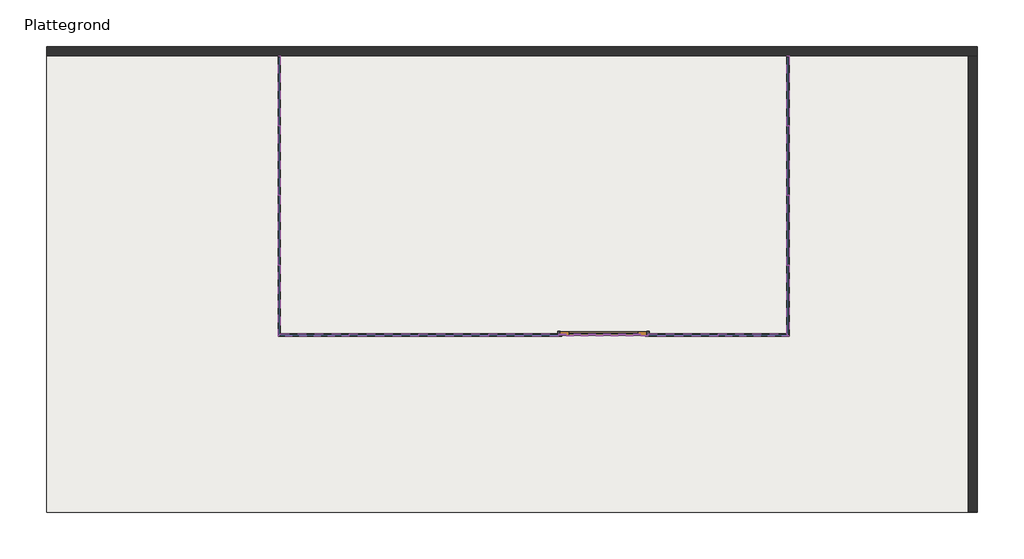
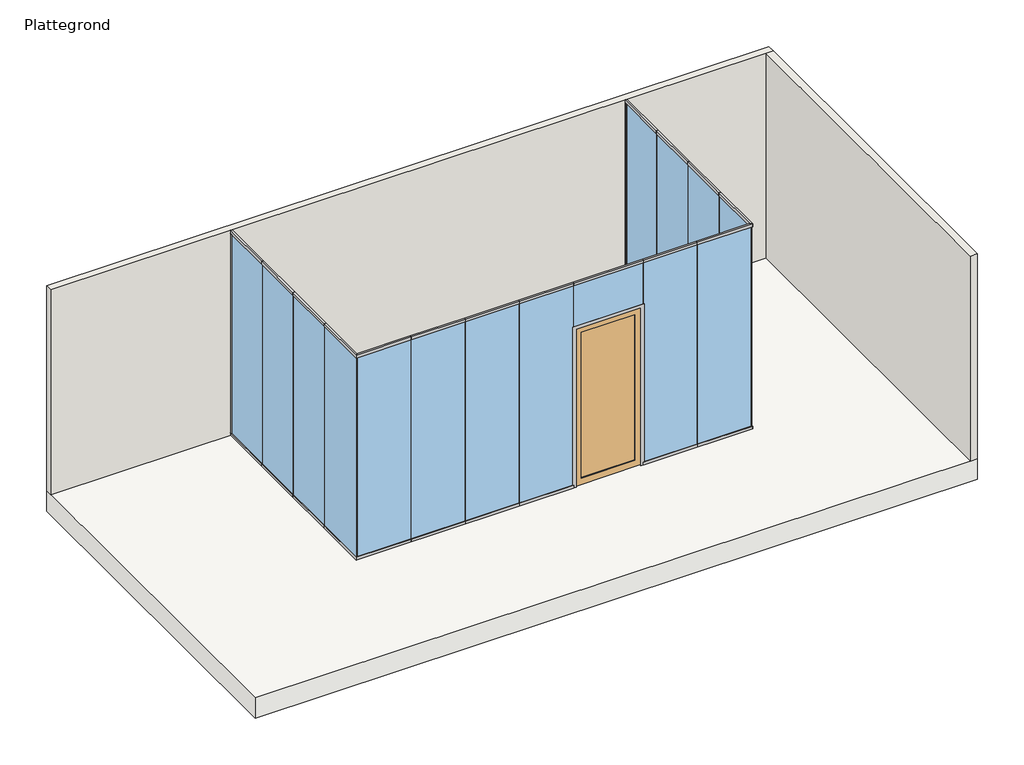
# One storey: 32 members, 15 windows, 2 walls, 1 door, 1 slab.
"""IFC4 building model written with IfcOpenShell, lengths in millimetres."""

from ifc_helpers import new_model, si_unit, frame, origin, origin_with_axes, place, context, project, spatial, polyline, outline, extrude, faceted_brep, transform, mapped, element, save
from components import door_8fe75821, member_32_im_005_hgs_32_im_005_hgs_e924d92b, rectangular_mullion_edcf2523, rectangular_mullion_ccb339f7, rectangular_mullion_8ea182ef, rectangular_mullion_9d4a5aa8, rectangular_mullion_2450aa11, rectangular_mullion_95f8c3c7, rectangular_mullion_e158b8b9, rectangular_mullion_f6220092, rectangular_mullion_41da4477, rectangular_mullion_288d5927, window_32_im_002_hgs_32_im_002_hgs_72c7ee55, window_32_im_002_hgs_32_im_002_hgs_77d960d4, window_32_im_002_hgs_32_im_002_hgs_65bd3827, window_32_im_002_hgs_32_im_002_hgs_8f304ec4, window_32_im_002_hgs_32_im_002_hgs_97abe2d1, window_32_im_002_hgs_32_im_002_hgs_2188cdbe, window_32_im_002_hgs_32_im_002_hgs_a56874b4

model = new_model("IFC4")

# Units and contexts
model_context = context("Model", 3, world=origin())
ifc_project = project(units=[si_unit("LENGTHUNIT", "METRE", prefix="MILLI")], contexts=[model_context])

# Site, building, storey
site = spatial("IfcSite", under=ifc_project)
building = spatial("IfcBuilding", under=site)
storey = spatial("IfcBuildingStorey", under=building, Name="Plattegrond", Elevation=0.0)

# Door
placement = place(None, origin())
door_shape = door_8fe75821(model_context)
element("IfcDoor", 1, ObjectType="32_IM_deurpaneel : 32_IM_deurpaneel_L_KD", at=placement, inside=storey, context=model_context, shape_type="MappedRepresentation", body=[
    mapped(door_shape, transform((5821.9353409, 2145.0863222, 0.0), x_axis=(1.0, 0.0, 0.0), y_axis=(0.0, 1.0, 0.0), z_axis=(0.0, 0.0, 1.0))),
])

# Members
member_32_im_005_hgs_32_im_005_hgs_shape = member_32_im_005_hgs_32_im_005_hgs_e924d92b(model_context)
element("IfcMember", 2, ObjectType="32_IM_005_HGS : 32_IM_005_HGS", at=placement, inside=storey, context=model_context, shape_type="MappedRepresentation", body=[
    mapped(member_32_im_005_hgs_32_im_005_hgs_shape, transform((5821.9353409, 2127.5863222, 1177.5), x_axis=(0.0, 0.0, -1.0), y_axis=(1.0, 0.0, 0.0), z_axis=(0.0, -1.0, 0.0))),
])
rectangular_mullion_shape = rectangular_mullion_edcf2523(model_context)
element("IfcMember", 3, ObjectType="Rectangular Mullion : 22_IM_HGS_DET1_boven_40mm", at=placement, inside=storey, context=model_context, shape_type="MappedRepresentation", body=[
    mapped(rectangular_mullion_shape, transform((2339.9353409, 2127.5863222, 3000.0), x_axis=(0.0, 0.0, 1.0), y_axis=(-1.0, 0.0, 0.0), z_axis=(0.0, -1.0, 0.0))),
])
element("IfcMember", 4, ObjectType="Rectangular Mullion : 22_IM_HGS_DET1_boven_40mm", at=placement, inside=storey, context=model_context, shape_type="MappedRepresentation", body=[
    mapped(rectangular_mullion_shape, transform((7803.9353409, 2127.5863222, 3000.0), x_axis=(0.0, 0.0, 1.0), y_axis=(0.0, -1.0, 0.0), z_axis=(1.0, 0.0, 0.0))),
])
rectangular_mullion_2_shape = rectangular_mullion_ccb339f7(model_context)
element("IfcMember", 5, ObjectType="Rectangular Mullion : 22_IM_HGS_DET1_boven_40mm", at=placement, inside=storey, context=model_context, shape_type="MappedRepresentation", body=[
    mapped(rectangular_mullion_2_shape, transform((2339.9353409, 4377.5863219, 3000.0), x_axis=(0.0, 0.0, 1.0), y_axis=(-1.0, 0.0, 0.0), z_axis=(0.0, -1.0, 0.0))),
])
rectangular_mullion_3_shape = rectangular_mullion_8ea182ef(model_context)
element("IfcMember", 6, ObjectType="Rectangular Mullion : 22_IM_HGS_DET1_boven_40mm", at=placement, inside=storey, context=model_context, shape_type="MappedRepresentation", body=[
    mapped(rectangular_mullion_3_shape, transform((2339.9353409, 3627.5863219, 3000.0), x_axis=(0.0, 0.0, 1.0), y_axis=(-1.0, 0.0, 0.0), z_axis=(0.0, -1.0, 0.0))),
])
element("IfcMember", 7, ObjectType="Rectangular Mullion : 22_IM_HGS_DET1_boven_40mm", at=placement, inside=storey, context=model_context, shape_type="MappedRepresentation", body=[
    mapped(rectangular_mullion_3_shape, transform((2339.9353409, 2877.5863219, 3000.0), x_axis=(0.0, 0.0, 1.0), y_axis=(-1.0, 0.0, 0.0), z_axis=(0.0, -1.0, 0.0))),
])
element("IfcMember", 8, ObjectType="Rectangular Mullion : 22_IM_HGS_DET1_boven_40mm", at=placement, inside=storey, context=model_context, shape_type="MappedRepresentation", body=[
    mapped(rectangular_mullion_3_shape, transform((3839.9353409, 2127.5863222, 3000.0), x_axis=(0.0, 0.0, 1.0), y_axis=(0.0, -1.0, 0.0), z_axis=(1.0, 0.0, 0.0))),
])
element("IfcMember", 9, ObjectType="Rectangular Mullion : 22_IM_HGS_DET1_boven_40mm", at=placement, inside=storey, context=model_context, shape_type="MappedRepresentation", body=[
    mapped(rectangular_mullion_3_shape, transform((4589.9353409, 2127.5863222, 3000.0), x_axis=(0.0, 0.0, 1.0), y_axis=(0.0, -1.0, 0.0), z_axis=(1.0, 0.0, 0.0))),
])
element("IfcMember", 10, ObjectType="Rectangular Mullion : 22_IM_HGS_DET1_boven_40mm", at=placement, inside=storey, context=model_context, shape_type="MappedRepresentation", body=[
    mapped(rectangular_mullion_3_shape, transform((5339.9353409, 2127.5863222, 3000.0), x_axis=(0.0, 0.0, 1.0), y_axis=(0.0, -1.0, 0.0), z_axis=(1.0, 0.0, 0.0))),
])
element("IfcMember", 11, ObjectType="Rectangular Mullion : 22_IM_HGS_DET1_boven_40mm", at=placement, inside=storey, context=model_context, shape_type="MappedRepresentation", body=[
    mapped(rectangular_mullion_3_shape, transform((7053.9353409, 2127.5863222, 3000.0), x_axis=(0.0, 0.0, 1.0), y_axis=(0.0, -1.0, 0.0), z_axis=(1.0, 0.0, 0.0))),
])
element("IfcMember", 12, ObjectType="Rectangular Mullion : 22_IM_HGS_DET1_boven_40mm", at=placement, inside=storey, context=model_context, shape_type="MappedRepresentation", body=[
    mapped(rectangular_mullion_3_shape, transform((7803.9353409, 3627.5863222, 3000.0), x_axis=(0.0, 0.0, 1.0), y_axis=(1.0, 0.0, 0.0), z_axis=(0.0, 1.0, 0.0))),
])
element("IfcMember", 13, ObjectType="Rectangular Mullion : 22_IM_HGS_DET1_boven_40mm", at=placement, inside=storey, context=model_context, shape_type="MappedRepresentation", body=[
    mapped(rectangular_mullion_3_shape, transform((7803.9353409, 4377.5863222, 3000.0), x_axis=(0.0, 0.0, 1.0), y_axis=(1.0, 0.0, 0.0), z_axis=(0.0, 1.0, 0.0))),
])
rectangular_mullion_4_shape = rectangular_mullion_9d4a5aa8(model_context)
element("IfcMember", 14, ObjectType="Rectangular Mullion : 22_IM_HGS_DET2_onder_40mm", at=placement, inside=storey, context=model_context, shape_type="MappedRepresentation", body=[
    mapped(rectangular_mullion_4_shape, transform((2339.9353409, 5127.5863222, 0.0), x_axis=(0.0, 0.0, -1.0), y_axis=(-1.0, 0.0, 0.0), z_axis=(0.0, 1.0, 0.0))),
])
rectangular_mullion_5_shape = rectangular_mullion_2450aa11(model_context)
element("IfcMember", 15, ObjectType="Rectangular Mullion : 22_IM_HGS_DET2_onder_40mm", at=placement, inside=storey, context=model_context, shape_type="MappedRepresentation", body=[
    mapped(rectangular_mullion_5_shape, transform((2339.9353409, 4377.5863219, 0.0), x_axis=(0.0, 0.0, -1.0), y_axis=(-1.0, 0.0, 0.0), z_axis=(0.0, 1.0, 0.0))),
])
element("IfcMember", 16, ObjectType="Rectangular Mullion : 22_IM_HGS_DET2_onder_40mm", at=placement, inside=storey, context=model_context, shape_type="MappedRepresentation", body=[
    mapped(rectangular_mullion_5_shape, transform((2339.9353409, 3627.5863219, 0.0), x_axis=(0.0, 0.0, -1.0), y_axis=(-1.0, 0.0, 0.0), z_axis=(0.0, 1.0, 0.0))),
])
element("IfcMember", 17, ObjectType="Rectangular Mullion : 22_IM_HGS_DET2_onder_40mm", at=placement, inside=storey, context=model_context, shape_type="MappedRepresentation", body=[
    mapped(rectangular_mullion_5_shape, transform((3089.9353409, 2127.5863222, 0.0), x_axis=(0.0, 0.0, -1.0), y_axis=(0.0, -1.0, 0.0), z_axis=(-1.0, 0.0, 0.0))),
])
element("IfcMember", 18, ObjectType="Rectangular Mullion : 22_IM_HGS_DET2_onder_40mm", at=placement, inside=storey, context=model_context, shape_type="MappedRepresentation", body=[
    mapped(rectangular_mullion_5_shape, transform((3839.9353409, 2127.5863222, 0.0), x_axis=(0.0, 0.0, -1.0), y_axis=(0.0, -1.0, 0.0), z_axis=(-1.0, 0.0, 0.0))),
])
element("IfcMember", 19, ObjectType="Rectangular Mullion : 22_IM_HGS_DET2_onder_40mm", at=placement, inside=storey, context=model_context, shape_type="MappedRepresentation", body=[
    mapped(rectangular_mullion_5_shape, transform((7803.9353409, 2877.5863222, 0.0), x_axis=(0.0, 0.0, -1.0), y_axis=(1.0, 0.0, 0.0), z_axis=(0.0, -1.0, 0.0))),
])
element("IfcMember", 20, ObjectType="Rectangular Mullion : 22_IM_HGS_DET2_onder_40mm", at=placement, inside=storey, context=model_context, shape_type="MappedRepresentation", body=[
    mapped(rectangular_mullion_5_shape, transform((7803.9353409, 3627.5863222, 0.0), x_axis=(0.0, 0.0, -1.0), y_axis=(1.0, 0.0, 0.0), z_axis=(0.0, -1.0, 0.0))),
])
rectangular_mullion_6_shape = rectangular_mullion_95f8c3c7(model_context)
element("IfcMember", 21, ObjectType="Rectangular Mullion : 22_IM_HGS_DET2_onder_40mm", at=placement, inside=storey, context=model_context, shape_type="MappedRepresentation", body=[
    mapped(rectangular_mullion_6_shape, transform((2339.9353409, 2877.5863219, 0.0), x_axis=(0.0, 0.0, -1.0), y_axis=(-1.0, 0.0, 0.0), z_axis=(0.0, 1.0, 0.0))),
])
element("IfcMember", 22, ObjectType="Rectangular Mullion : 22_IM_HGS_DET2_onder_40mm", at=placement, inside=storey, context=model_context, shape_type="MappedRepresentation", body=[
    mapped(rectangular_mullion_6_shape, transform((7053.9353409, 2127.5863222, 0.0), x_axis=(0.0, 0.0, -1.0), y_axis=(0.0, -1.0, 0.0), z_axis=(-1.0, 0.0, 0.0))),
])
rectangular_mullion_7_shape = rectangular_mullion_e158b8b9(model_context)
element("IfcMember", 23, ObjectType="Rectangular Mullion : 22_IM_HGS_38_MAS", at=placement, inside=storey, context=model_context, shape_type="MappedRepresentation", body=[
    mapped(rectangular_mullion_7_shape, transform((2339.9353409, 5127.5863222, 2959.0), x_axis=(0.0, 1.0, 0.0), y_axis=(-1.0, 0.0, 0.0), z_axis=(0.0, 0.0, 1.0))),
])
rectangular_mullion_8_shape = rectangular_mullion_f6220092(model_context)
element("IfcMember", 24, ObjectType="Rectangular Mullion : 22_IM_HGS_DET1_boven_40mm", at=placement, inside=storey, context=model_context, shape_type="MappedRepresentation", body=[
    mapped(rectangular_mullion_8_shape, transform((3089.9353409, 2127.5863222, 3000.0), x_axis=(0.0, 0.0, 1.0), y_axis=(0.0, -1.0, 0.0), z_axis=(1.0, 0.0, 0.0))),
])
element("IfcMember", 25, ObjectType="Rectangular Mullion : 22_IM_HGS_DET1_boven_40mm", at=placement, inside=storey, context=model_context, shape_type="MappedRepresentation", body=[
    mapped(rectangular_mullion_8_shape, transform((7803.9353409, 2877.5863222, 3000.0), x_axis=(0.0, 0.0, 1.0), y_axis=(1.0, 0.0, 0.0), z_axis=(0.0, 1.0, 0.0))),
])
rectangular_mullion_9_shape = rectangular_mullion_41da4477(model_context)
element("IfcMember", 26, ObjectType="Rectangular Mullion : 22_IM_HGS_DET1_boven_40mm", at=placement, inside=storey, context=model_context, shape_type="MappedRepresentation", body=[
    mapped(rectangular_mullion_9_shape, transform((6303.9353409, 2127.5863222, 3000.0), x_axis=(0.0, 0.0, 1.0), y_axis=(0.0, -1.0, 0.0), z_axis=(1.0, 0.0, 0.0))),
])
rectangular_mullion_10_shape = rectangular_mullion_288d5927(model_context)
element("IfcMember", 27, ObjectType="Rectangular Mullion : 22_IM_HGS_DET2_onder_40mm", at=placement, inside=storey, context=model_context, shape_type="MappedRepresentation", body=[
    mapped(rectangular_mullion_10_shape, transform((2339.9353409, 2127.5863222, 0.0), x_axis=(0.0, 0.0, -1.0), y_axis=(0.0, -1.0, 0.0), z_axis=(-1.0, 0.0, 0.0))),
])
element("IfcMember", 28, ObjectType="Rectangular Mullion : 22_IM_HGS_DET2_onder_40mm", at=placement, inside=storey, context=model_context, shape_type="MappedRepresentation", body=[
    mapped(rectangular_mullion_10_shape, transform((7803.9353409, 2127.5863222, 0.0), x_axis=(0.0, 0.0, -1.0), y_axis=(1.0, 0.0, 0.0), z_axis=(0.0, -1.0, 0.0))),
])
element("IfcMember", 29, ObjectType="Rectangular Mullion : 22_IM_HGS_DET2_onder_40mm", at=placement, inside=storey, context=model_context, shape_type="MappedRepresentation", body=[
    mapped(rectangular_mullion_5_shape, transform((4589.9353409, 2127.5863222, 0.0), x_axis=(0.0, 0.0, -1.0), y_axis=(0.0, -1.0, 0.0), z_axis=(-1.0, 0.0, 0.0))),
])
element("IfcMember", 30, ObjectType="Rectangular Mullion : 22_IM_HGS_DET1_boven_40mm", at=placement, inside=storey, context=model_context, shape_type="MappedRepresentation", body=[
    mapped(rectangular_mullion_3_shape, transform((7803.9353409, 5127.5863222, 3000.0), x_axis=(0.0, 0.0, 1.0), y_axis=(1.0, 0.0, 0.0), z_axis=(0.0, 1.0, 0.0))),
])
element("IfcMember", 31, ObjectType="Rectangular Mullion : 22_IM_HGS_DET2_onder_40mm", at=placement, inside=storey, context=model_context, shape_type="MappedRepresentation", body=[
    mapped(rectangular_mullion_5_shape, transform((7803.9353409, 4377.5863222, 0.0), x_axis=(0.0, 0.0, -1.0), y_axis=(1.0, 0.0, 0.0), z_axis=(0.0, -1.0, 0.0))),
])
element("IfcMember", 32, ObjectType="Rectangular Mullion : 22_IM_HGS_38_MAS_sp", at=placement, inside=storey, context=model_context, shape_type="MappedRepresentation", body=[
    mapped(rectangular_mullion_7_shape, transform((7803.9353409, 5127.5863222, 42.0), x_axis=(0.0, 1.0, 0.0), y_axis=(1.0, 0.0, 0.0), z_axis=(0.0, 0.0, -1.0))),
])
element("IfcMember", 33, ObjectType="Rectangular Mullion : 22_IM_HGS_DET2_onder_40mm", at=placement, inside=storey, context=model_context, shape_type="MappedRepresentation", body=[
    mapped(rectangular_mullion_5_shape, transform((6303.9353409, 2127.5863222, 0.0), x_axis=(0.0, 0.0, -1.0), y_axis=(0.0, -1.0, 0.0), z_axis=(-1.0, 0.0, 0.0))),
])

# Slab
element("IfcSlab", 34, ObjectType="23_FL_generiek 300", at=placement, inside=storey, context=model_context, shape_type="SweptSolid", body=[
    extrude(outline(polyline([(9839.9353409, 227.5863222), (-160.0646591, 227.5863222), (-160.0646591, 5227.5863222), (9839.9353409, 5227.5863222), (9839.9353409, 227.5863222)])), frame((0.0, 0.0, -300.0), z_axis=(0.0, 0.0, 1.0), x_axis=(1.0, 0.0, 0.0)), (0.0, 0.0, 1.0), 300.0),
])

# Walls
element("IfcWall", 35, ObjectType="20_WA_ontwerpwand 100", at=placement, inside=storey, context=model_context, shape_type="Brep", body=[
    faceted_brep([(-160.0646591, 5127.5863222, 0.0), (9739.9353409, 5127.5863222, 0.0), (9839.9353409, 5127.5863222, 0.0), (9839.9353409, 5127.5863222, 3000.0), (9739.9353409, 5127.5863222, 3000.0), (-160.0646591, 5127.5863222, 3000.0), (-160.0646591, 5227.5863222, 0.0), (-160.0646591, 5227.5863222, 3000.0), (9839.9353409, 5227.5863222, 3000.0), (9839.9353409, 5227.5863222, 0.0)], [[[0, 1, 2, 3, 4, 5]], [[6, 7, 8, 9]], [[2, 1, 0, 6, 9]], [[5, 4, 3, 8, 7]], [[0, 5, 7, 6]], [[3, 2, 9, 8]]]),
])
element("IfcWall", 36, ObjectType="20_WA_ontwerpwand 100", at=placement, inside=storey, context=model_context, shape_type="SweptSolid", body=[
    extrude(outline(polyline([(9739.9353409, 227.5863222), (9739.9353409, 5127.5863222), (9839.9353409, 5127.5863222), (9839.9353409, 227.5863222), (9739.9353409, 227.5863222)])), origin_with_axes(), (0.0, 0.0, 1.0), 3000.0),
])

# Windows
window_32_im_002_hgs_32_im_002_hgs_shape = window_32_im_002_hgs_32_im_002_hgs_72c7ee55(model_context)
element("IfcWindow", 37, ObjectType="32_IM_002_HGS : 32_IM_002_HGS", at=placement, inside=storey, context=model_context, shape_type="MappedRepresentation", body=[
    mapped(window_32_im_002_hgs_32_im_002_hgs_shape, transform((2339.9353409, 4744.086322, 26.0), x_axis=(0.0, -1.0, 0.0), y_axis=(1.0, 0.0, 0.0), z_axis=(0.0, 0.0, 1.0))),
])
element("IfcWindow", 38, ObjectType="32_IM_002_HGS : 32_IM_002_HGS", at=placement, inside=storey, context=model_context, shape_type="MappedRepresentation", body=[
    mapped(window_32_im_002_hgs_32_im_002_hgs_shape, transform((7803.9353409, 4744.0863222, 26.0), x_axis=(0.0, 1.0, 0.0), y_axis=(-1.0, 0.0, 0.0), z_axis=(0.0, 0.0, 1.0))),
])
window_32_im_002_hgs_32_im_002_hgs_2_shape = window_32_im_002_hgs_32_im_002_hgs_77d960d4(model_context)
element("IfcWindow", 39, ObjectType="32_IM_002_HGS : 32_IM_002_HGS", at=placement, inside=storey, context=model_context, shape_type="MappedRepresentation", body=[
    mapped(window_32_im_002_hgs_32_im_002_hgs_2_shape, transform((2339.9353409, 4002.5863219, 26.0), x_axis=(0.0, -1.0, 0.0), y_axis=(1.0, 0.0, 0.0), z_axis=(0.0, 0.0, 1.0))),
])
element("IfcWindow", 40, ObjectType="32_IM_002_HGS : 32_IM_002_HGS", at=placement, inside=storey, context=model_context, shape_type="MappedRepresentation", body=[
    mapped(window_32_im_002_hgs_32_im_002_hgs_2_shape, transform((2339.9353409, 3252.5863219, 26.0), x_axis=(0.0, -1.0, 0.0), y_axis=(1.0, 0.0, 0.0), z_axis=(0.0, 0.0, 1.0))),
])
element("IfcWindow", 41, ObjectType="32_IM_002_HGS : 32_IM_002_HGS", at=placement, inside=storey, context=model_context, shape_type="MappedRepresentation", body=[
    mapped(window_32_im_002_hgs_32_im_002_hgs_2_shape, transform((3464.9353409, 2127.5863222, 26.0), x_axis=(1.0, 0.0, 0.0), y_axis=(0.0, 1.0, 0.0), z_axis=(0.0, 0.0, 1.0))),
])
element("IfcWindow", 42, ObjectType="32_IM_002_HGS : 32_IM_002_HGS", at=placement, inside=storey, context=model_context, shape_type="MappedRepresentation", body=[
    mapped(window_32_im_002_hgs_32_im_002_hgs_2_shape, transform((4214.9353409, 2127.5863222, 26.0), x_axis=(1.0, 0.0, 0.0), y_axis=(0.0, 1.0, 0.0), z_axis=(0.0, 0.0, 1.0))),
])
element("IfcWindow", 43, ObjectType="32_IM_002_HGS : 32_IM_002_HGS", at=placement, inside=storey, context=model_context, shape_type="MappedRepresentation", body=[
    mapped(window_32_im_002_hgs_32_im_002_hgs_2_shape, transform((4964.9353409, 2127.5863222, 26.0), x_axis=(1.0, 0.0, 0.0), y_axis=(0.0, 1.0, 0.0), z_axis=(0.0, 0.0, 1.0))),
])
element("IfcWindow", 44, ObjectType="32_IM_002_HGS : 32_IM_002_HGS", at=placement, inside=storey, context=model_context, shape_type="MappedRepresentation", body=[
    mapped(window_32_im_002_hgs_32_im_002_hgs_2_shape, transform((6678.9353409, 2127.5863222, 26.0), x_axis=(1.0, 0.0, 0.0), y_axis=(0.0, 1.0, 0.0), z_axis=(0.0, 0.0, 1.0))),
])
element("IfcWindow", 45, ObjectType="32_IM_002_HGS : 32_IM_002_HGS", at=placement, inside=storey, context=model_context, shape_type="MappedRepresentation", body=[
    mapped(window_32_im_002_hgs_32_im_002_hgs_2_shape, transform((7803.9353409, 3252.5863222, 26.0), x_axis=(0.0, 1.0, 0.0), y_axis=(-1.0, 0.0, 0.0), z_axis=(0.0, 0.0, 1.0))),
])
element("IfcWindow", 46, ObjectType="32_IM_002_HGS : 32_IM_002_HGS", at=placement, inside=storey, context=model_context, shape_type="MappedRepresentation", body=[
    mapped(window_32_im_002_hgs_32_im_002_hgs_2_shape, transform((7803.9353409, 4002.5863222, 26.0), x_axis=(0.0, 1.0, 0.0), y_axis=(-1.0, 0.0, 0.0), z_axis=(0.0, 0.0, 1.0))),
])
window_32_im_002_hgs_32_im_002_hgs_3_shape = window_32_im_002_hgs_32_im_002_hgs_65bd3827(model_context)
element("IfcWindow", 47, ObjectType="32_IM_002_HGS : 32_IM_002_HGS", at=placement, inside=storey, context=model_context, shape_type="MappedRepresentation", body=[
    mapped(window_32_im_002_hgs_32_im_002_hgs_3_shape, transform((5821.9353409, 2127.5863222, 2344.0), x_axis=(1.0, 0.0, 0.0), y_axis=(0.0, 1.0, 0.0), z_axis=(0.0, 0.0, 1.0))),
])
window_32_im_002_hgs_32_im_002_hgs_4_shape = window_32_im_002_hgs_32_im_002_hgs_8f304ec4(model_context)
element("IfcWindow", 48, ObjectType="32_IM_002_HGS : 32_IM_002_HGS", at=placement, inside=storey, context=model_context, shape_type="MappedRepresentation", body=[
    mapped(window_32_im_002_hgs_32_im_002_hgs_4_shape, transform((2718.9353409, 2127.5863222, 26.0), x_axis=(-1.0, 0.0, 0.0), y_axis=(0.0, -1.0, 0.0), z_axis=(0.0, 0.0, 1.0))),
])
window_32_im_002_hgs_32_im_002_hgs_5_shape = window_32_im_002_hgs_32_im_002_hgs_97abe2d1(model_context)
element("IfcWindow", 49, ObjectType="32_IM_002_HGS : 32_IM_002_HGS", at=placement, inside=storey, context=model_context, shape_type="MappedRepresentation", body=[
    mapped(window_32_im_002_hgs_32_im_002_hgs_5_shape, transform((2339.9353409, 2499.586322, 26.0), x_axis=(0.0, -1.0, 0.0), y_axis=(1.0, 0.0, 0.0), z_axis=(0.0, 0.0, 1.0))),
])
window_32_im_002_hgs_32_im_002_hgs_6_shape = window_32_im_002_hgs_32_im_002_hgs_2188cdbe(model_context)
element("IfcWindow", 50, ObjectType="32_IM_002_HGS : 32_IM_002_HGS", at=placement, inside=storey, context=model_context, shape_type="MappedRepresentation", body=[
    mapped(window_32_im_002_hgs_32_im_002_hgs_6_shape, transform((7803.9353409, 2499.5863222, 26.0), x_axis=(0.0, -1.0, 0.0), y_axis=(1.0, 0.0, 0.0), z_axis=(0.0, 0.0, 1.0))),
])
window_32_im_002_hgs_32_im_002_hgs_7_shape = window_32_im_002_hgs_32_im_002_hgs_a56874b4(model_context)
element("IfcWindow", 51, ObjectType="32_IM_002_HGS : 32_IM_002_HGS", at=placement, inside=storey, context=model_context, shape_type="MappedRepresentation", body=[
    mapped(window_32_im_002_hgs_32_im_002_hgs_7_shape, transform((7424.9353409, 2127.5863222, 26.0), x_axis=(1.0, 0.0, 0.0), y_axis=(0.0, 1.0, 0.0), z_axis=(0.0, 0.0, 1.0))),
])

save(model, "model.ifc")
